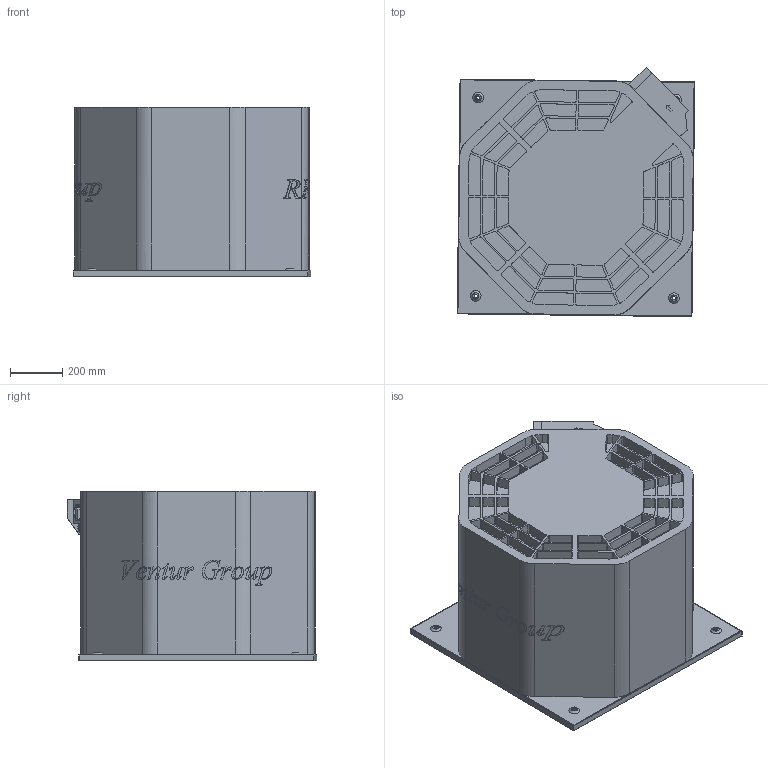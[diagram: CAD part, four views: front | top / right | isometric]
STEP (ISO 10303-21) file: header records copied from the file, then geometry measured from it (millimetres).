
FILE_DESCRIPTION(/* description */ (''),/* implementation_level */ '2;1');
FILE_NAME(/* name */ 'E:\Mariusz\Modele uproszczone\RFHT\RFHT_x_450 43534067\RFHT_x_450 43534067\RFHT_x_450 43534067.stp',/* time_stamp */ '2018-06-14T13:05:06+02:00',/* author */ ('M.Janczarek'),/* organization */ (''),/* preprocessor_version */ 'ST-DEVELOPER v16.5',/* originating_system */ 'Autodesk Inventor 2017',/* authorisation */ '');
FILE_SCHEMA (('AUTOMOTIVE_DESIGN { 1 0 10303 214 3 1 1 }'));
Products named in the file (1): RFHT_x_450 43534067
Bounding box: 910.86 x 955.11 x 649 mm (x, y, z)
Volume: 407158918.3 mm3; surface area: 4346921.4 mm2
Topology: 1 solids, 1 shells, 1613 faces, 4434 edges, 2922 vertices
Faces by surface type: plane 901, bspline 353, cylinder 277, cone 64, sphere 12, torus 6
Full cylindrical faces by diameter (mm): 6.186 x1, 12.4 x4, 13.5 x1, 14.5 x2, 20 x1, 22 x2, 23 x1, 24 x2, 27 x2, 30.5 x2, 52 x1, 55 x1, 56.5 x1, 60 x1, 367 x1
Entity records: 55029 total; most frequent: CARTESIAN_POINT 15423, ORIENTED_EDGE 8752, DIRECTION 6921, EDGE_CURVE 4376, VERTEX_POINT 2909, LINE 2667, VECTOR 2667, AXIS2_PLACEMENT_3D 2127
